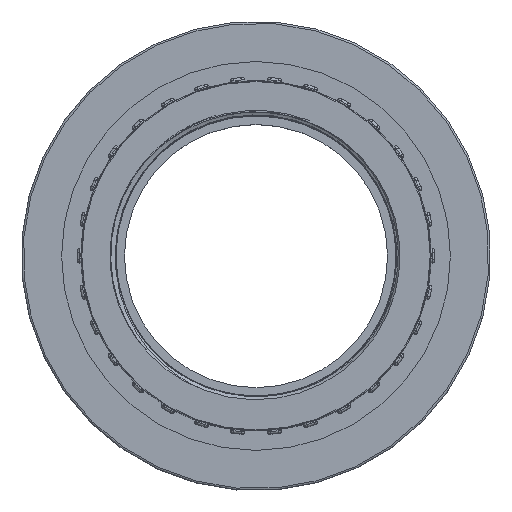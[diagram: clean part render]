
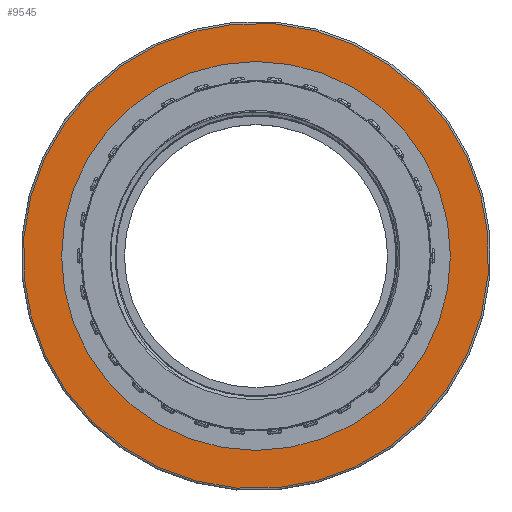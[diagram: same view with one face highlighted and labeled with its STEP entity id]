
A CAD part, top view. The second image highlights one B-rep face of the part: STEP entity #9545.
In plain terms, the highlighted planar face has unit normal (0, 0, 1).
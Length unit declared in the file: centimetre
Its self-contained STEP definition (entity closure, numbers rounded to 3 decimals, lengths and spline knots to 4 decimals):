
#1806=FACE_BOUND('',#2719,.T.);
#2178=FACE_OUTER_BOUND('',#2718,.T.);
#2718=EDGE_LOOP('',(#7577));
#2719=EDGE_LOOP('',(#7578));
#2903=CIRCLE('',#9734,5.01);
#3272=CIRCLE('',#10383,6.);
#3483=VERTEX_POINT('',#17911);
#4041=VERTEX_POINT('',#25484);
#4378=EDGE_CURVE('',#3483,#3483,#2903,.T.);
#5273=EDGE_CURVE('',#4041,#4041,#3272,.T.);
#7577=ORIENTED_EDGE('',*,*,#5273,.F.);
#7578=ORIENTED_EDGE('',*,*,#4378,.T.);
#8626=PLANE('',#10385);
#9545=ADVANCED_FACE('',(#2178,#1806),#8626,.T.);
#9734=AXIS2_PLACEMENT_3D('',#17912,#10727,#10728);
#10383=AXIS2_PLACEMENT_3D('',#25485,#12478,#12479);
#10385=AXIS2_PLACEMENT_3D('',#25488,#12482,#12483);
#10727=DIRECTION('center_axis',(0.,0.,
-1.));
#10728=DIRECTION('ref_axis',(1.,0.,0.));
#12478=DIRECTION('center_axis',(0.,0.,
-1.));
#12479=DIRECTION('ref_axis',(0.419,0.908,0.));
#12482=DIRECTION('center_axis',(0.,0.,
1.));
#12483=DIRECTION('ref_axis',(0.908,-0.419,0.));
#17911=CARTESIAN_POINT('',(-5.01,0.,2.65));
#17912=CARTESIAN_POINT('Origin',(0.,0.,
2.65));
#25484=CARTESIAN_POINT('',(-2.5162,-5.4469,2.65));
#25485=CARTESIAN_POINT('Origin',(0.,0.,
2.65));
#25488=CARTESIAN_POINT('Origin',(-2.5372,-5.4923,2.65));
